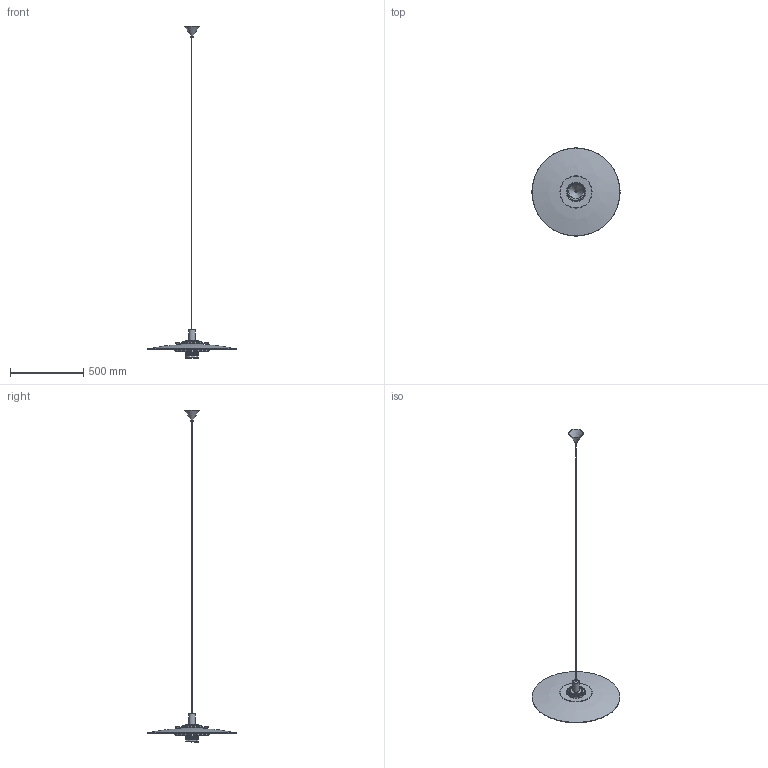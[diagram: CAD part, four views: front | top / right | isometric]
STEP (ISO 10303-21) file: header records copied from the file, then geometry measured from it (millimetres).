
FILE_DESCRIPTION(/* description */ (''),/* implementation_level */ '2;1');
FILE_NAME(/* name */ '/Users/pamelahd/Desktop/Palma-PA001-3D.step',/* time_stamp */ '2021-10-01T12:42:22-05:00',/* author */ (''),/* organization */ (''),/* preprocessor_version */ 'ST-DEVELOPER v18.1',/* originating_system */ 'Autodesk Translation Framework v10.10.0.1391',/* authorisation */ '');
FILE_SCHEMA (('AUTOMOTIVE_DESIGN { 1 0 10303 214 3 1 1 }'));
Length unit declared in the file: millimetre
Products named in the file (9): Palma-PA001-3D; Metal1; glass; Metal2; Cable; canopy-cone-Ø8cm v5; cover; nut; PA001-Palma- v1
Assembly tree (8 placements, depth 3):
  Palma-PA001-3D
    Metal1
    glass
    Metal2
    Cable
    canopy-cone-Ø8cm v5
      cover
      nut
    PA001-Palma- v1
Bounding box: 601.59 x 601.59 x 2263.8 mm (x, y, z)
Volume: 1394088.9 mm3; surface area: 967506 mm2
Topology: 7 solids, 7 shells, 669 faces, 1926 edges, 1278 vertices
Faces by surface type: plane 321, cylinder 319, torus 16, cone 11, bspline 2
Full cylindrical faces by diameter (mm): 5 x1, 7 x2, 9.036 x1, 10 x1, 14 x1, 40 x1, 43 x1, 80.4 x1, 82 x2, 84 x1, 86 x1, 88 x1, 123.4 x1, 125 x2, 133 x1, 280 x1
Entity records: 25225 total; most frequent: CARTESIAN_POINT 7182, ORIENTED_EDGE 3852, DIRECTION 3450, EDGE_CURVE 1926, VERTEX_POINT 1278, AXIS2_PLACEMENT_3D 1200, LINE 1050, VECTOR 1050
